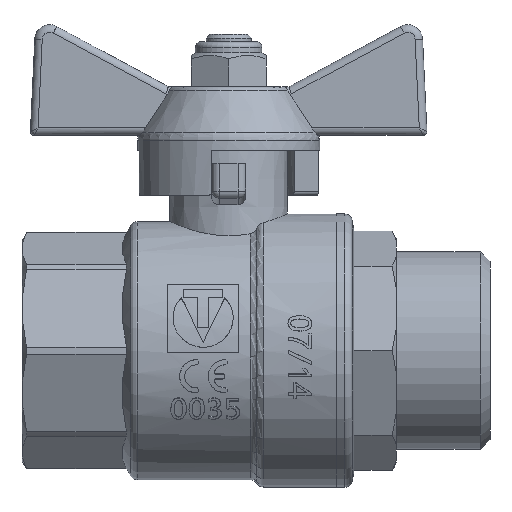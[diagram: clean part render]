
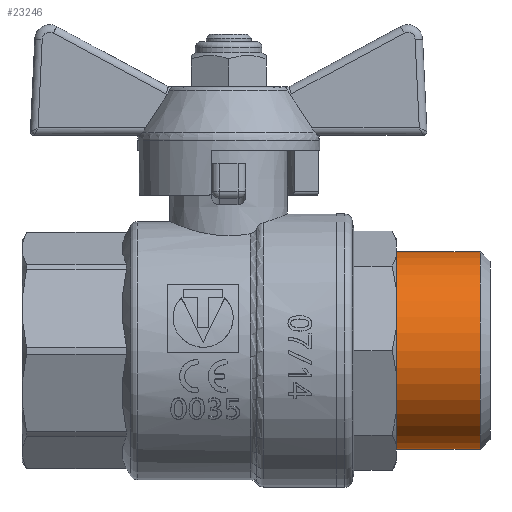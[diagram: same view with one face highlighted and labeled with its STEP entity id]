
A CAD part, front view. The second image highlights one B-rep face of the part: STEP entity #23246.
In plain terms, the highlighted cylindrical face has radius 13.2 mm (diameter 26.4 mm), a full revolution.
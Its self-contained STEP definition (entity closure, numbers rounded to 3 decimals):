
#23205=CARTESIAN_POINT('',(50.5,0.,0.));
#23206=DIRECTION('',(-1.,0.,0.));
#23207=DIRECTION('',(0.,0.,1.));
#23208=AXIS2_PLACEMENT_3D('',#23205,#23206,#23207);
#23209=CYLINDRICAL_SURFACE('',#23208,13.2);
#23210=CARTESIAN_POINT('',(38.,0.,13.2));
#23211=VERTEX_POINT('',#23210);
#23212=CARTESIAN_POINT('',(49.2,0.,13.2));
#23213=VERTEX_POINT('',#23212);
#23214=CARTESIAN_POINT('',(38.,0.,13.2));
#23215=DIRECTION('',(1.,-0.,-0.));
#23216=VECTOR('',#23215,11.2);
#23217=LINE('',#23214,#23216);
#23218=EDGE_CURVE('',#23211,#23213,#23217,.T.);
#23219=ORIENTED_EDGE('',*,*,#23218,.T.);
#23220=CARTESIAN_POINT('',(49.2,0.,-13.2));
#23221=VERTEX_POINT('',#23220);
#23222=CARTESIAN_POINT('',(49.2,0.,0.));
#23223=DIRECTION('',(-1.,-0.,0.));
#23224=DIRECTION('',(-0.,0.,-1.));
#23225=AXIS2_PLACEMENT_3D('',#23222,#23223,#23224);
#23226=CIRCLE('',#23225,13.2);
#23227=EDGE_CURVE('',#23213,#23221,#23226,.T.);
#23228=ORIENTED_EDGE('',*,*,#23227,.T.);
#23229=CARTESIAN_POINT('',(49.2,0.,0.));
#23230=DIRECTION('',(-1.,-0.,0.));
#23231=DIRECTION('',(-0.,0.,-1.));
#23232=AXIS2_PLACEMENT_3D('',#23229,#23230,#23231);
#23233=CIRCLE('',#23232,13.2);
#23234=EDGE_CURVE('',#23221,#23213,#23233,.T.);
#23235=ORIENTED_EDGE('',*,*,#23234,.T.);
#23236=ORIENTED_EDGE('',*,*,#23218,.F.);
#23237=CARTESIAN_POINT('',(38.,0.,0.));
#23238=DIRECTION('',(-1.,0.,0.));
#23239=DIRECTION('',(0.,0.,1.));
#23240=AXIS2_PLACEMENT_3D('',#23237,#23238,#23239);
#23241=CIRCLE('',#23240,13.2);
#23242=EDGE_CURVE('',#23211,#23211,#23241,.T.);
#23243=ORIENTED_EDGE('',*,*,#23242,.F.);
#23244=EDGE_LOOP('',(#23219,#23228,#23235,#23236,#23243));
#23245=FACE_BOUND('',#23244,.T.);
#23246=ADVANCED_FACE('',(#23245),#23209,.T.);
